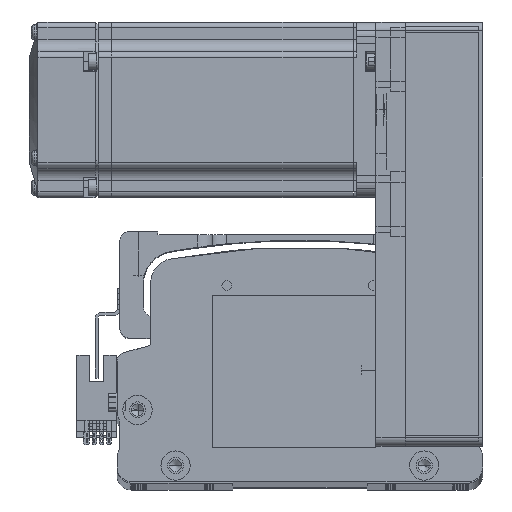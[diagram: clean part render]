
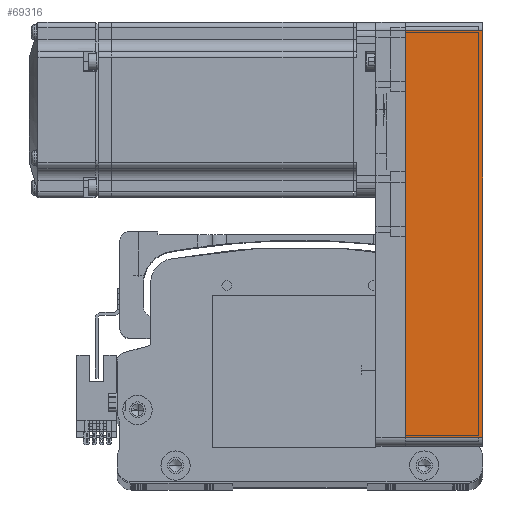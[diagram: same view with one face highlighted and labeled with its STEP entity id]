
A CAD part, top view. The second image highlights one B-rep face of the part: STEP entity #69316.
In plain terms, the highlighted planar face has unit normal (0, 0, 1) as drawn and (0, 1, 0) by its records, which use the part's own axes.
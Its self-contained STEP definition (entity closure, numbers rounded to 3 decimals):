
#19 = CARTESIAN_POINT ( 'NONE',  ( -69.5, 30., 26.5 ) ) ;
#1427 = CARTESIAN_POINT ( 'NONE',  ( 69.5, 30., 26.5 ) ) ;
#4168 = VECTOR ( 'NONE', #34897, 1000. ) ;
#5227 = CARTESIAN_POINT ( 'NONE',  ( 69.5, 30., 0. ) ) ;
#5253 = DIRECTION ( 'NONE',  ( 1., 0., 0. ) ) ;
#10210 = CARTESIAN_POINT ( 'NONE',  ( 69.5, 30., 26.5 ) ) ;
#10931 = VERTEX_POINT ( 'NONE', #19 ) ;
#11350 = VERTEX_POINT ( 'NONE', #19988 ) ;
#12999 = VECTOR ( 'NONE', #39323, 1000. ) ;
#19988 = CARTESIAN_POINT ( 'NONE',  ( -69.5, 30., 0. ) ) ;
#20941 = FACE_OUTER_BOUND ( 'NONE', #79220, .T. ) ;
#28183 = VECTOR ( 'NONE', #28205, 1000. ) ;
#28205 = DIRECTION ( 'NONE',  ( 0., 0., -1. ) ) ;
#34897 = DIRECTION ( 'NONE',  ( 0., 0., 1. ) ) ;
#39323 = DIRECTION ( 'NONE',  ( -1., 0., 0. ) ) ;
#40243 = LINE ( 'NONE', #71364, #73706 ) ;
#40715 = ORIENTED_EDGE ( 'NONE', *, *, #47459, .T. ) ;
#45205 = DIRECTION ( 'NONE',  ( 0., -1., 0. ) ) ;
#45951 = LINE ( 'NONE', #1427, #28183 ) ;
#47459 = EDGE_CURVE ( 'NONE', #62820, #11350, #40243, .T. ) ;
#56783 = AXIS2_PLACEMENT_3D ( 'NONE', #85280, #45205, #5253 ) ;
#57867 = EDGE_CURVE ( 'NONE', #11350, #10931, #73147, .T. ) ;
#62633 = VERTEX_POINT ( 'NONE', #10210 ) ;
#62820 = VERTEX_POINT ( 'NONE', #5227 ) ;
#66368 = ORIENTED_EDGE ( 'NONE', *, *, #80761, .T. ) ;
#69316 = ADVANCED_FACE ( 'NONE', ( #20941 ), #71569, .F. ) ;
#71364 = CARTESIAN_POINT ( 'NONE',  ( 72.5, 30., 0. ) ) ;
#71569 = PLANE ( 'NONE',  #56783 ) ;
#71591 = EDGE_CURVE ( 'NONE', #62633, #10931, #81966, .T. ) ;
#73147 = LINE ( 'NONE', #81660, #4168 ) ;
#73706 = VECTOR ( 'NONE', #78078, 1000. ) ;
#78078 = DIRECTION ( 'NONE',  ( -1., 0., 0. ) ) ;
#79220 = EDGE_LOOP ( 'NONE', ( #40715, #80634, #83171, #66368 ) ) ;
#80634 = ORIENTED_EDGE ( 'NONE', *, *, #57867, .T. ) ;
#80761 = EDGE_CURVE ( 'NONE', #62633, #62820, #45951, .T. ) ;
#81660 = CARTESIAN_POINT ( 'NONE',  ( -69.5, 30., 26.5 ) ) ;
#81966 = LINE ( 'NONE', #86086, #12999 ) ;
#83171 = ORIENTED_EDGE ( 'NONE', *, *, #71591, .F. ) ;
#85280 = CARTESIAN_POINT ( 'NONE',  ( 72.5, 30., 26.5 ) ) ;
#86086 = CARTESIAN_POINT ( 'NONE',  ( 72.5, 30., 26.5 ) ) ;
